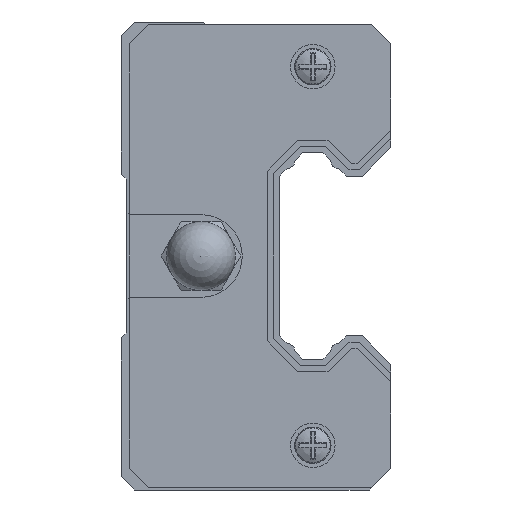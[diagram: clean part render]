
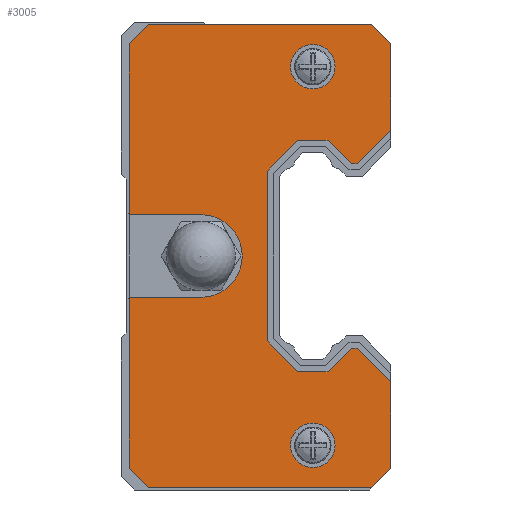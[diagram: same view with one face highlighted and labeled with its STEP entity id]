
A CAD part, left-side view. The second image highlights one B-rep face of the part: STEP entity #3005.
In plain terms, the highlighted planar face has unit normal (-1, 0, 0) as drawn and (1, 0, 0) by its records, which use the part's own axes.
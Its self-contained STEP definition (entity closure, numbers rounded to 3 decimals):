
#2894 = VERTEX_POINT('',#2895);
#2895 = CARTESIAN_POINT('',(2.5,4.4,9.148));
#2901 = EDGE_CURVE('',#2902,#2894,#2904,.T.);
#2902 = VERTEX_POINT('',#2903);
#2903 = CARTESIAN_POINT('',(2.5,4.4,15.412));
#2904 = LINE('',#2905,#2906);
#2905 = CARTESIAN_POINT('',(2.5,4.4,15.412));
#2906 = VECTOR('',#2907,1.);
#2907 = DIRECTION('',(0.,0.,-1.));
#2980 = VERTEX_POINT('',#2981);
#2981 = CARTESIAN_POINT('',(2.5,4.4,-15.412));
#2987 = EDGE_CURVE('',#2988,#2980,#2990,.T.);
#2988 = VERTEX_POINT('',#2989);
#2989 = CARTESIAN_POINT('',(2.5,4.4,-9.148));
#2990 = LINE('',#2991,#2992);
#2991 = CARTESIAN_POINT('',(2.5,4.4,15.412));
#2992 = VECTOR('',#2993,1.);
#2993 = DIRECTION('',(0.,0.,-1.));
#3005 = ADVANCED_FACE('',(#3006,#3183,#3194),#3205,.T.);
#3006 = FACE_BOUND('',#3007,.T.);
#3007 = EDGE_LOOP('',(#3008,#3016,#3024,#3032,#3040,#3048,#3056,#3064,
    #3072,#3080,#3088,#3094,#3095,#3103,#3111,#3119,#3127,#3135,#3144,
    #3152,#3160,#3168,#3176,#3182));
#3008 = ORIENTED_EDGE('',*,*,#3009,.F.);
#3009 = EDGE_CURVE('',#3010,#2894,#3012,.T.);
#3010 = VERTEX_POINT('',#3011);
#3011 = CARTESIAN_POINT('',(2.5,6.849,6.699));
#3012 = LINE('',#3013,#3014);
#3013 = CARTESIAN_POINT('',(2.5,6.849,6.699));
#3014 = VECTOR('',#3015,1.);
#3015 = DIRECTION('',(0.,-0.707,0.707));
#3016 = ORIENTED_EDGE('',*,*,#3017,.F.);
#3017 = EDGE_CURVE('',#3018,#3010,#3020,.T.);
#3018 = VERTEX_POINT('',#3019);
#3019 = CARTESIAN_POINT('',(2.5,7.267,6.699));
#3020 = LINE('',#3021,#3022);
#3021 = CARTESIAN_POINT('',(2.5,7.267,6.699));
#3022 = VECTOR('',#3023,1.);
#3023 = DIRECTION('',(0.,-1.,0.));
#3024 = ORIENTED_EDGE('',*,*,#3025,.F.);
#3025 = EDGE_CURVE('',#3026,#3018,#3028,.T.);
#3026 = VERTEX_POINT('',#3027);
#3027 = CARTESIAN_POINT('',(2.5,8.968,8.4));
#3028 = LINE('',#3029,#3030);
#3029 = CARTESIAN_POINT('',(2.5,8.968,8.4));
#3030 = VECTOR('',#3031,1.);
#3031 = DIRECTION('',(0.,-0.707,-0.707));
#3032 = ORIENTED_EDGE('',*,*,#3033,.F.);
#3033 = EDGE_CURVE('',#3034,#3026,#3036,.T.);
#3034 = VERTEX_POINT('',#3035);
#3035 = CARTESIAN_POINT('',(2.5,11.172,8.4));
#3036 = LINE('',#3037,#3038);
#3037 = CARTESIAN_POINT('',(2.5,11.172,8.4));
#3038 = VECTOR('',#3039,1.);
#3039 = DIRECTION('',(0.,-1.,0.));
#3040 = ORIENTED_EDGE('',*,*,#3041,.F.);
#3041 = EDGE_CURVE('',#3042,#3034,#3044,.T.);
#3042 = VERTEX_POINT('',#3043);
#3043 = CARTESIAN_POINT('',(2.5,13.4,6.172));
#3044 = LINE('',#3045,#3046);
#3045 = CARTESIAN_POINT('',(2.5,13.4,6.172));
#3046 = VECTOR('',#3047,1.);
#3047 = DIRECTION('',(0.,-0.707,0.707));
#3048 = ORIENTED_EDGE('',*,*,#3049,.F.);
#3049 = EDGE_CURVE('',#3050,#3042,#3052,.T.);
#3050 = VERTEX_POINT('',#3051);
#3051 = CARTESIAN_POINT('',(2.5,13.4,-6.172));
#3052 = LINE('',#3053,#3054);
#3053 = CARTESIAN_POINT('',(2.5,13.4,-6.172));
#3054 = VECTOR('',#3055,1.);
#3055 = DIRECTION('',(0.,0.,1.));
#3056 = ORIENTED_EDGE('',*,*,#3057,.F.);
#3057 = EDGE_CURVE('',#3058,#3050,#3060,.T.);
#3058 = VERTEX_POINT('',#3059);
#3059 = CARTESIAN_POINT('',(2.5,11.172,-8.4));
#3060 = LINE('',#3061,#3062);
#3061 = CARTESIAN_POINT('',(2.5,11.172,-8.4));
#3062 = VECTOR('',#3063,1.);
#3063 = DIRECTION('',(0.,0.707,0.707));
#3064 = ORIENTED_EDGE('',*,*,#3065,.F.);
#3065 = EDGE_CURVE('',#3066,#3058,#3068,.T.);
#3066 = VERTEX_POINT('',#3067);
#3067 = CARTESIAN_POINT('',(2.5,8.968,-8.4));
#3068 = LINE('',#3069,#3070);
#3069 = CARTESIAN_POINT('',(2.5,8.968,-8.4));
#3070 = VECTOR('',#3071,1.);
#3071 = DIRECTION('',(0.,1.,0.));
#3072 = ORIENTED_EDGE('',*,*,#3073,.F.);
#3073 = EDGE_CURVE('',#3074,#3066,#3076,.T.);
#3074 = VERTEX_POINT('',#3075);
#3075 = CARTESIAN_POINT('',(2.5,7.267,-6.699));
#3076 = LINE('',#3077,#3078);
#3077 = CARTESIAN_POINT('',(2.5,7.267,-6.699));
#3078 = VECTOR('',#3079,1.);
#3079 = DIRECTION('',(0.,0.707,-0.707));
#3080 = ORIENTED_EDGE('',*,*,#3081,.F.);
#3081 = EDGE_CURVE('',#3082,#3074,#3084,.T.);
#3082 = VERTEX_POINT('',#3083);
#3083 = CARTESIAN_POINT('',(2.5,6.849,-6.699));
#3084 = LINE('',#3085,#3086);
#3085 = CARTESIAN_POINT('',(2.5,6.849,-6.699));
#3086 = VECTOR('',#3087,1.);
#3087 = DIRECTION('',(0.,1.,0.));
#3088 = ORIENTED_EDGE('',*,*,#3089,.F.);
#3089 = EDGE_CURVE('',#2988,#3082,#3090,.T.);
#3090 = LINE('',#3091,#3092);
#3091 = CARTESIAN_POINT('',(2.5,4.4,-9.148));
#3092 = VECTOR('',#3093,1.);
#3093 = DIRECTION('',(0.,0.707,0.707));
#3094 = ORIENTED_EDGE('',*,*,#2987,.T.);
#3095 = ORIENTED_EDGE('',*,*,#3096,.T.);
#3096 = EDGE_CURVE('',#2980,#3097,#3099,.T.);
#3097 = VERTEX_POINT('',#3098);
#3098 = CARTESIAN_POINT('',(2.5,5.788,-16.8));
#3099 = LINE('',#3100,#3101);
#3100 = CARTESIAN_POINT('',(2.5,4.4,-15.412));
#3101 = VECTOR('',#3102,1.);
#3102 = DIRECTION('',(0.,0.707,-0.707));
#3103 = ORIENTED_EDGE('',*,*,#3104,.T.);
#3104 = EDGE_CURVE('',#3097,#3105,#3107,.T.);
#3105 = VERTEX_POINT('',#3106);
#3106 = CARTESIAN_POINT('',(2.5,22.012,-16.8));
#3107 = LINE('',#3108,#3109);
#3108 = CARTESIAN_POINT('',(2.5,5.788,-16.8));
#3109 = VECTOR('',#3110,1.);
#3110 = DIRECTION('',(0.,1.,0.));
#3111 = ORIENTED_EDGE('',*,*,#3112,.T.);
#3112 = EDGE_CURVE('',#3105,#3113,#3115,.T.);
#3113 = VERTEX_POINT('',#3114);
#3114 = CARTESIAN_POINT('',(2.5,23.4,-15.412));
#3115 = LINE('',#3116,#3117);
#3116 = CARTESIAN_POINT('',(2.5,22.012,-16.8));
#3117 = VECTOR('',#3118,1.);
#3118 = DIRECTION('',(0.,0.707,0.707));
#3119 = ORIENTED_EDGE('',*,*,#3120,.T.);
#3120 = EDGE_CURVE('',#3113,#3121,#3123,.T.);
#3121 = VERTEX_POINT('',#3122);
#3122 = CARTESIAN_POINT('',(2.5,23.4,-3.));
#3123 = LINE('',#3124,#3125);
#3124 = CARTESIAN_POINT('',(2.5,23.4,-15.412));
#3125 = VECTOR('',#3126,1.);
#3126 = DIRECTION('',(0.,0.,1.));
#3127 = ORIENTED_EDGE('',*,*,#3128,.F.);
#3128 = EDGE_CURVE('',#3129,#3121,#3131,.T.);
#3129 = VERTEX_POINT('',#3130);
#3130 = CARTESIAN_POINT('',(2.5,18.2,-3.));
#3131 = LINE('',#3132,#3133);
#3132 = CARTESIAN_POINT('',(2.5,18.2,-3.));
#3133 = VECTOR('',#3134,1.);
#3134 = DIRECTION('',(0.,1.,0.));
#3135 = ORIENTED_EDGE('',*,*,#3136,.F.);
#3136 = EDGE_CURVE('',#3137,#3129,#3139,.T.);
#3137 = VERTEX_POINT('',#3138);
#3138 = CARTESIAN_POINT('',(2.5,18.2,3.));
#3139 = CIRCLE('',#3140,3.);
#3140 = AXIS2_PLACEMENT_3D('',#3141,#3142,#3143);
#3141 = CARTESIAN_POINT('',(2.5,18.2,0.));
#3142 = DIRECTION('',(1.,0.,0.));
#3143 = DIRECTION('',(0.,0.,-1.));
#3144 = ORIENTED_EDGE('',*,*,#3145,.F.);
#3145 = EDGE_CURVE('',#3146,#3137,#3148,.T.);
#3146 = VERTEX_POINT('',#3147);
#3147 = CARTESIAN_POINT('',(2.5,23.4,3.));
#3148 = LINE('',#3149,#3150);
#3149 = CARTESIAN_POINT('',(2.5,23.4,3.));
#3150 = VECTOR('',#3151,1.);
#3151 = DIRECTION('',(0.,-1.,0.));
#3152 = ORIENTED_EDGE('',*,*,#3153,.T.);
#3153 = EDGE_CURVE('',#3146,#3154,#3156,.T.);
#3154 = VERTEX_POINT('',#3155);
#3155 = CARTESIAN_POINT('',(2.5,23.4,15.412));
#3156 = LINE('',#3157,#3158);
#3157 = CARTESIAN_POINT('',(2.5,23.4,-15.412));
#3158 = VECTOR('',#3159,1.);
#3159 = DIRECTION('',(0.,0.,1.));
#3160 = ORIENTED_EDGE('',*,*,#3161,.T.);
#3161 = EDGE_CURVE('',#3154,#3162,#3164,.T.);
#3162 = VERTEX_POINT('',#3163);
#3163 = CARTESIAN_POINT('',(2.5,22.012,16.8));
#3164 = LINE('',#3165,#3166);
#3165 = CARTESIAN_POINT('',(2.5,23.4,15.412));
#3166 = VECTOR('',#3167,1.);
#3167 = DIRECTION('',(0.,-0.707,0.707));
#3168 = ORIENTED_EDGE('',*,*,#3169,.T.);
#3169 = EDGE_CURVE('',#3162,#3170,#3172,.T.);
#3170 = VERTEX_POINT('',#3171);
#3171 = CARTESIAN_POINT('',(2.5,5.788,16.8));
#3172 = LINE('',#3173,#3174);
#3173 = CARTESIAN_POINT('',(2.5,22.012,16.8));
#3174 = VECTOR('',#3175,1.);
#3175 = DIRECTION('',(0.,-1.,0.));
#3176 = ORIENTED_EDGE('',*,*,#3177,.T.);
#3177 = EDGE_CURVE('',#3170,#2902,#3178,.T.);
#3178 = LINE('',#3179,#3180);
#3179 = CARTESIAN_POINT('',(2.5,5.788,16.8));
#3180 = VECTOR('',#3181,1.);
#3181 = DIRECTION('',(0.,-0.707,-0.707));
#3182 = ORIENTED_EDGE('',*,*,#2901,.T.);
#3183 = FACE_BOUND('',#3184,.T.);
#3184 = EDGE_LOOP('',(#3185));
#3185 = ORIENTED_EDGE('',*,*,#3186,.T.);
#3186 = EDGE_CURVE('',#3187,#3187,#3189,.T.);
#3187 = VERTEX_POINT('',#3188);
#3188 = CARTESIAN_POINT('',(2.5,10.07,15.365));
#3189 = CIRCLE('',#3190,1.615);
#3190 = AXIS2_PLACEMENT_3D('',#3191,#3192,#3193);
#3191 = CARTESIAN_POINT('',(2.5,10.07,13.75));
#3192 = DIRECTION('',(-1.,0.,0.));
#3193 = DIRECTION('',(0.,0.,1.));
#3194 = FACE_BOUND('',#3195,.T.);
#3195 = EDGE_LOOP('',(#3196));
#3196 = ORIENTED_EDGE('',*,*,#3197,.T.);
#3197 = EDGE_CURVE('',#3198,#3198,#3200,.T.);
#3198 = VERTEX_POINT('',#3199);
#3199 = CARTESIAN_POINT('',(2.5,10.07,-12.135));
#3200 = CIRCLE('',#3201,1.615);
#3201 = AXIS2_PLACEMENT_3D('',#3202,#3203,#3204);
#3202 = CARTESIAN_POINT('',(2.5,10.07,-13.75));
#3203 = DIRECTION('',(-1.,0.,0.));
#3204 = DIRECTION('',(0.,0.,1.));
#3205 = PLANE('',#3206);
#3206 = AXIS2_PLACEMENT_3D('',#3207,#3208,#3209);
#3207 = CARTESIAN_POINT('',(2.5,0.,0.));
#3208 = DIRECTION('',(1.,0.,0.));
#3209 = DIRECTION('',(0.,0.,1.));
